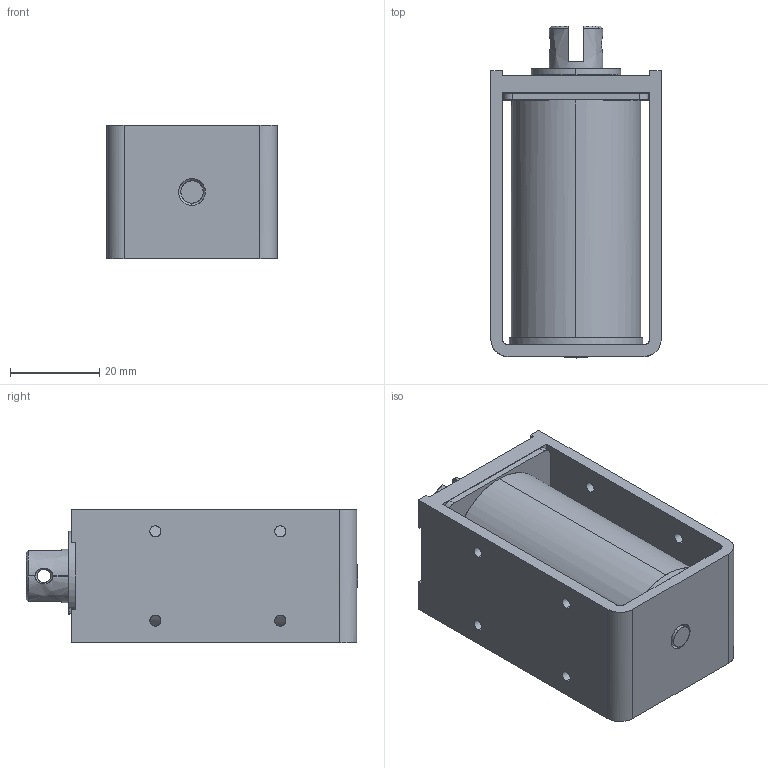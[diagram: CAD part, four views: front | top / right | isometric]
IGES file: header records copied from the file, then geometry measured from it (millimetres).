
Start section: SolidWorks IGES file using analytic representation for surfaces
Global section: file name: L:\カタログ\web用3Dデータ\CA1264\3D_CA1264A\w_CA1264A.IGS; native system: SolidWorks 2018; preprocessor: SolidWorks 2018; author: yakata; date: 210521.102423; units: millimetre
Bounding box: 38.2 x 74.4 x 30 mm (x, y, z)
Surface area: 22960.5 mm2 (no closed solid volume)
Topology: 0 solids, 0 shells, 127 faces, 2087 edges, 2087 vertices
Faces by surface type: bspline 127
